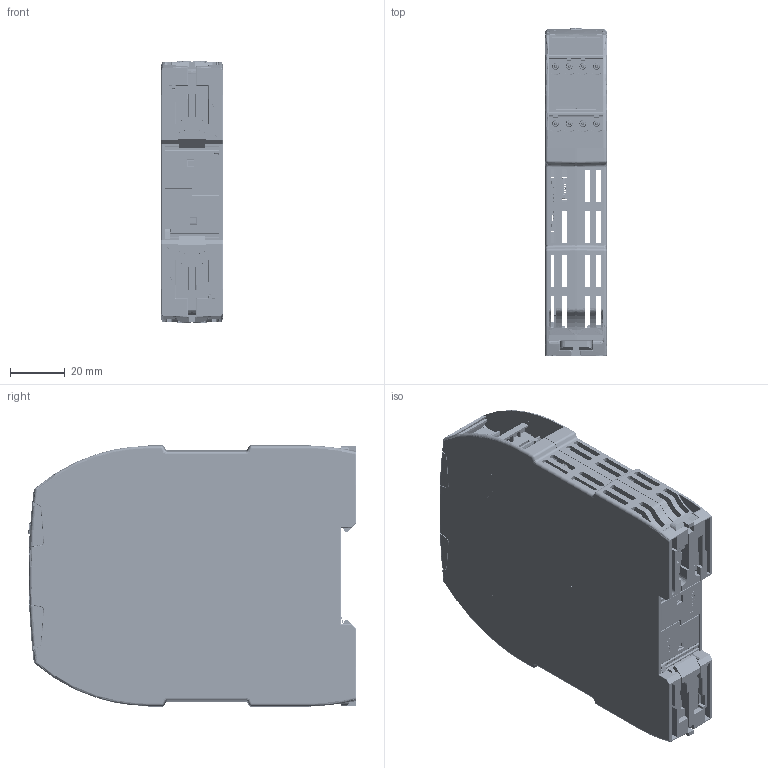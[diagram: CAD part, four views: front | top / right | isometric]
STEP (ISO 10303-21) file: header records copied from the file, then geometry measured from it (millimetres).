
FILE_DESCRIPTION((''),'2;1');
FILE_NAME('2037938','2025-07-09T08:21:42',('s.mayer'),(''),'CREO PARAMETRIC BY PTC INC, 2019292','CREO PARAMETRIC BY PTC INC, 2019292','');
FILE_SCHEMA(('AUTOMOTIVE_DESIGN { 1 0 10303 214 1 1 1 1 }'));
Products named in the file (1): 2037938
Bounding box: 22.5 x 120.35 x 96 mm (x, y, z)
Volume: 56104.1 mm3; surface area: 104216 mm2
Topology: 5 solids, 5 shells, 13396 faces, 37634 edges, 24401 vertices
Faces by surface type: plane 9093, cylinder 2731, extrusion 487, bspline 353, cone 266, torus 254, sphere 204, revolution 8
Entity records: 696214 total; most frequent: CARTESIAN_POINT 139601, ORIENTED_EDGE 75236, DIRECTION 63836, PRESENTATION_STYLE_ASSIGNMENT 51083, STYLED_ITEM 38119, CURVE_STYLE 38114, EDGE_CURVE 37618, VECTOR 28962
